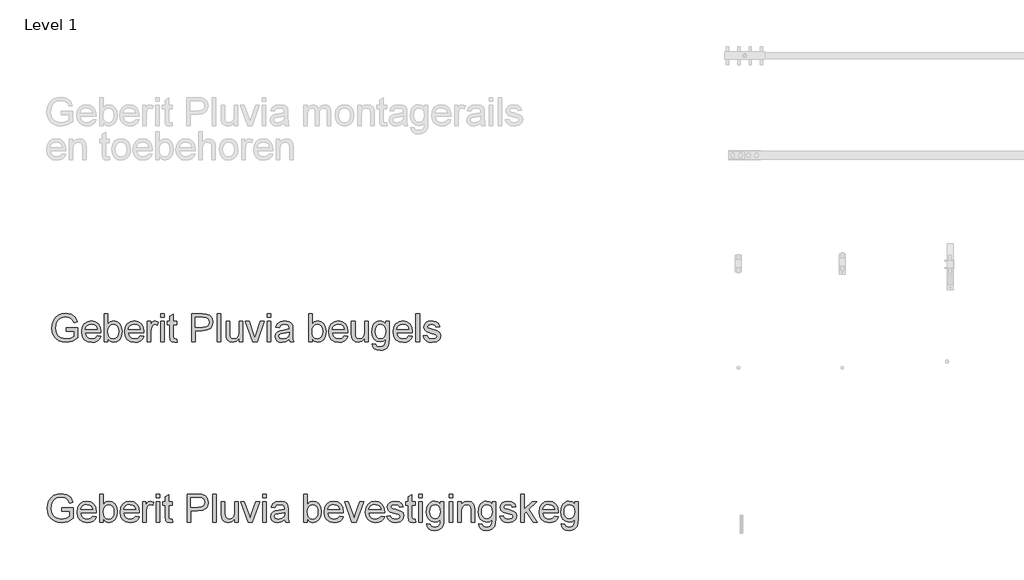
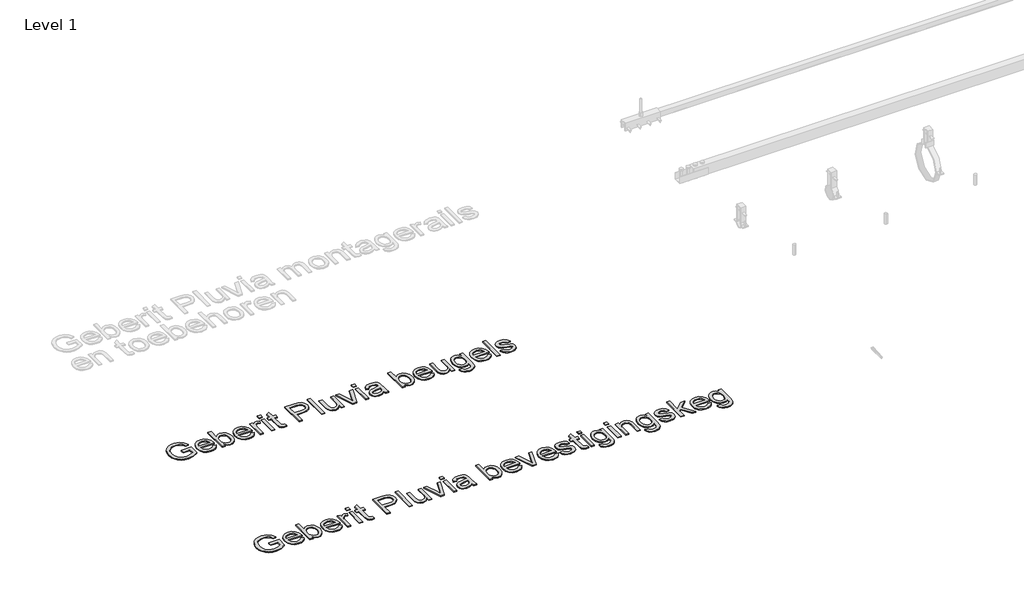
# One storey, part 2 of 5: 2 proxies.
"""IFC4 building model written with IfcOpenShell, lengths in millimetres."""

from ifc_helpers import new_model, si_unit, origin, origin_with_axes, place, context, project, spatial, polyline, outline, extrude, element, save

model = new_model("IFC4")

# Units and contexts
model_context = context("Model", 3, world=origin())
ifc_project = project(units=[si_unit("LENGTHUNIT", "METRE", prefix="MILLI")], contexts=[model_context])

# Site, building, storey
site = spatial("IfcSite", under=ifc_project)
building = spatial("IfcBuilding", under=site)
storey = spatial("IfcBuildingStorey", under=building, Name="Level 1", Elevation=0.0)

# Proxies
placement = place(None, origin())
element("IfcBuildingElementProxy", 1, Name="small", ObjectType="small", at=placement, inside=storey, context=model_context, shape_type="SweptSolid", body=[
    extrude(outline(polyline([(-3108.7115933, 19712.758304), (-3108.7115933, 19730.3381583), (-3051.5770669, 19730.3381583), (-3051.5770669, 19677.7702737), (-3079.7838058, 19661.1861534), (-3109.6043203, 19655.6237776), (-3129.3258609, 19657.8341353), (-3147.1503567, 19664.4652082), (-3161.957607, 19675.2852309), (-3172.6274112, 19690.0624375), (-3179.078222, 19707.7882183), (-3181.2284922, 19727.4539635), (-3179.0868059, 19747.2613432), (-3172.6617468, 19765.6867129), (-3162.2194164, 19781.1420487), (-3148.0259159, 19792.0393265), (-3130.7379147, 19798.5030132), (-3111.0120821, 19800.6575754), (-3083.5092241, 19795.6617379), (-3064.229755, 19781.7557985), (-3053.6028705, 19758.4933937), (-3069.8092986, 19753.9267518), (-3077.8266736, 19770.1846835), (-3091.5265991, 19779.5583167), (-3111.2867673, 19783.0777211), (-3133.7937878, 19779.2836315), (-3149.107489, 19769.3262921), (-3158.1549335, 19755.7808771), (-3163.648638, 19728.1750122), (-3161.9962347, 19711.3634181), (-3157.0390248, 19697.530442), (-3148.9272268, 19686.7747987), (-3137.8110592, 19679.1952033), (-3111.0120821, 19673.2036319), (-3086.9599572, 19677.7187703), (-3069.1569212, 19687.3499209), (-3069.1569212, 19712.758304), (-3108.7115933, 19712.758304)])), origin_with_axes(), (0.0, 0.0, 1.0), 5.0),
    extrude(outline(polyline([(-2952.8964006, 19688.5860044), (-2935.6599028, 19686.3885226), (-2941.870364, 19673.4010619), (-2951.7804918, 19663.6926561), (-2965.1671045, 19657.6409972), (-2981.8070203, 19655.6237776), (-3002.4341638, 19659.1045544), (-3018.3058193, 19669.5468849), (-3028.426253, 19686.2726398), (-3031.7997309, 19708.60369), (-3028.3919173, 19731.6858327), (-3018.1684767, 19748.9480822), (-3002.511419, 19759.7123093), (-2982.8027542, 19763.3003851), (-2963.7078393, 19759.7208933), (-2948.4499335, 19748.9824178), (-2938.4453826, 19731.754504), (-2935.1105324, 19708.706697), (-2935.2135393, 19703.9683769), (-3014.2198766, 19703.9683769), (-3011.1768794, 19690.8092379), (-3004.1080268, 19681.1351677), (-2993.906046, 19675.1865159), (-2981.4636638, 19673.2036319), (-2964.227166, 19676.8775468), (-2952.8964006, 19688.5860044)]), holes=[polyline([(-3014.2198766, 19721.5482312), (-2952.6903866, 19721.5482312), (-2959.7291955, 19737.4799741), (-2969.9783879, 19743.6603916), (-2982.8714255, 19745.7205308), (-2994.7215177, 19744.0767114), (-3004.5200547, 19739.1452533), (-3011.3313898, 19731.458359), (-3014.2198766, 19721.5482312)])]), origin_with_axes(), (0.0, 0.0, 1.0), 5.0),
    extrude(outline(polyline([(-2899.9508238, 19657.8212594), (-2917.5306781, 19657.8212594), (-2917.5306781, 19798.4600936), (-2899.9508238, 19798.4600936), (-2899.9508238, 19746.3042369), (-2887.6414922, 19759.051348), (-2872.3449589, 19763.3003851), (-2854.730769, 19759.4719598), (-2841.0651791, 19748.7077326), (-2832.670112, 19731.9691018), (-2829.6314067, 19711.0071857), (-2832.7774109, 19687.538767), (-2842.2154235, 19670.0790875), (-2856.0655675, 19659.2376051), (-2872.4479658, 19655.6237776), (-2888.0792718, 19660.2848425), (-2899.9508238, 19674.2680371), (-2899.9508238, 19657.8212594)]), holes=[polyline([(-2899.9508238, 19710.1831301), (-2898.749076, 19695.5218063), (-2895.1438324, 19685.5988026), (-2885.9332935, 19676.3024246), (-2873.9587346, 19673.2036319), (-2863.8125491, 19675.4869528), (-2855.1427968, 19682.3369156), (-2849.1941449, 19693.7106006), (-2847.211261, 19709.5650883), (-2849.1125978, 19725.6513417), (-2854.8166081, 19736.896268), (-2863.2159672, 19743.5144651), (-2873.2033502, 19745.7205308), (-2883.3495356, 19743.4372099), (-2892.019288, 19736.5872471), (-2897.9679399, 19725.419576), (-2899.9508238, 19710.1831301)])]), origin_with_axes(), (0.0, 0.0, 1.0), 5.0),
    extrude(outline(polyline([(-2737.5431857, 19688.5860044), (-2720.3066879, 19686.3885226), (-2726.5171491, 19673.4010619), (-2736.427277, 19663.6926561), (-2749.8138896, 19657.6409972), (-2766.4538054, 19655.6237776), (-2787.0809489, 19659.1045544), (-2802.9526044, 19669.5468849), (-2813.0730381, 19686.2726398), (-2816.446516, 19708.60369), (-2813.0387024, 19731.6858327), (-2802.8152618, 19748.9480822), (-2787.1582041, 19759.7123093), (-2767.4495393, 19763.3003851), (-2748.3546244, 19759.7208933), (-2733.0967186, 19748.9824178), (-2723.0921678, 19731.754504), (-2719.7573175, 19708.706697), (-2719.8603244, 19703.9683769), (-2798.8666617, 19703.9683769), (-2795.8236645, 19690.8092379), (-2788.7548119, 19681.1351677), (-2778.5528311, 19675.1865159), (-2766.1104489, 19673.2036319), (-2748.8739511, 19676.8775468), (-2737.5431857, 19688.5860044)]), holes=[polyline([(-2798.8666617, 19721.5482312), (-2737.3371718, 19721.5482312), (-2744.3759806, 19737.4799741), (-2754.625173, 19743.6603916), (-2767.5182106, 19745.7205308), (-2779.3683028, 19744.0767114), (-2789.1668398, 19739.1452533), (-2795.9781749, 19731.458359), (-2798.8666617, 19721.5482312)])]), origin_with_axes(), (0.0, 0.0, 1.0), 5.0),
    extrude(outline(polyline([(-2702.1774632, 19657.8212594), (-2702.1774632, 19761.1029033), (-2686.7950907, 19761.1029033), (-2686.7950907, 19745.8235377), (-2675.8763531, 19759.9011554), (-2664.8889442, 19763.3003851), (-2647.2404186, 19757.8753519), (-2653.1118152, 19742.1152872), (-2665.4726503, 19745.7205308), (-2675.4128218, 19742.2526298), (-2681.7477497, 19732.638647), (-2684.5976089, 19712.1059266), (-2684.5976089, 19657.8212594), (-2702.1774632, 19657.8212594)])), origin_with_axes(), (0.0, 0.0, 1.0), 5.0),
    extrude(outline(polyline([(-2636.2530097, 19657.8212594), (-2636.2530097, 19761.1029033), (-2618.6731554, 19761.1029033), (-2618.6731554, 19657.8212594), (-2636.2530097, 19657.8212594)])), origin_with_axes(), (0.0, 0.0, 1.0), 5.0),
    extrude(outline(polyline([(-2636.2530097, 19780.8802393), (-2636.2530097, 19798.4600936), (-2618.6731554, 19798.4600936), (-2618.6731554, 19780.8802393), (-2636.2530097, 19780.8802393)])), origin_with_axes(), (0.0, 0.0, 1.0), 5.0),
    extrude(outline(polyline([(-2554.9461836, 19672.4825832), (-2552.7487019, 19657.3062246), (-2565.8992569, 19655.6237776), (-2580.629252, 19658.5423081), (-2587.9770817, 19666.1991587), (-2590.1058922, 19686.148173), (-2590.1058922, 19743.523049), (-2603.2907829, 19743.523049), (-2603.2907829, 19761.1029033), (-2590.1058922, 19761.1029033), (-2590.1058922, 19786.2022655), (-2572.5260379, 19796.5372971), (-2572.5260379, 19761.1029033), (-2554.9461836, 19761.1029033), (-2554.9461836, 19743.523049), (-2572.5260379, 19743.523049), (-2572.5260379, 19686.6632078), (-2571.5989753, 19677.5985955), (-2568.5946057, 19674.3882119), (-2562.6030342, 19673.2036319), (-2554.9461836, 19672.4825832)])), origin_with_axes(), (0.0, 0.0, 1.0), 5.0),
    extrude(outline(polyline([(-2480.231803, 19657.8212594), (-2480.231803, 19798.4600936), (-2428.1102819, 19798.4600936), (-2407.0968623, 19797.1210032), (-2390.014875, 19790.5457256), (-2378.941627, 19776.9488071), (-2374.7526773, 19757.772345), (-2377.5810767, 19741.1968085), (-2386.0662749, 19727.3852921), (-2401.9336385, 19718.0631624), (-2426.908534, 19714.9557858), (-2462.6519487, 19714.9557858), (-2462.6519487, 19657.8212594), (-2480.231803, 19657.8212594)]), holes=[polyline([(-2462.6519487, 19732.5356401), (-2425.8784644, 19732.5356401), (-2410.290078, 19734.1494158), (-2399.9893822, 19738.9907428), (-2394.2467442, 19746.7591843), (-2392.3325316, 19757.1543032), (-2396.8476699, 19771.71262), (-2408.710638, 19779.6784915), (-2426.2904923, 19780.8802393), (-2462.6519487, 19780.8802393), (-2462.6519487, 19732.5356401)])]), origin_with_axes(), (0.0, 0.0, 1.0), 5.0),
    extrude(outline(polyline([(-2352.7778595, 19657.8212594), (-2352.7778595, 19798.4600936), (-2335.1980052, 19798.4600936), (-2335.1980052, 19657.8212594), (-2352.7778595, 19657.8212594)])), origin_with_axes(), (0.0, 0.0, 1.0), 5.0),
    extrude(outline(polyline([(-2242.9037702, 19657.8212594), (-2242.9037702, 19675.5727919), (-2256.672367, 19660.6110312), (-2274.6299135, 19655.6237776), (-2291.1625304, 19659.1260142), (-2302.5619671, 19667.9159414), (-2307.7981542, 19680.8604825), (-2308.8282238, 19697.2042533), (-2308.8282238, 19761.1029033), (-2291.2483695, 19761.1029033), (-2291.2483695, 19705.4791456), (-2290.1839643, 19687.5559348), (-2283.2309945, 19677.0320572), (-2270.131943, 19673.2036319), (-2255.4534514, 19677.1178963), (-2245.7536294, 19687.7791165), (-2242.9037702, 19707.3676065), (-2242.9037702, 19761.1029033), (-2225.323916, 19761.1029033), (-2225.323916, 19657.8212594), (-2242.9037702, 19657.8212594)])), origin_with_axes(), (0.0, 0.0, 1.0), 5.0),
    extrude(outline(polyline([(-2175.8119045, 19657.8212594), (-2212.1390253, 19761.1029033), (-2193.5291014, 19761.1029033), (-2171.5199479, 19699.2300568), (-2164.8931669, 19678.4226511), (-2158.4037285, 19698.0626446), (-2136.2572324, 19761.1029033), (-2117.6473085, 19761.1029033), (-2153.5280658, 19657.8212594), (-2175.8119045, 19657.8212594)])), origin_with_axes(), (0.0, 0.0, 1.0), 5.0),
    extrude(outline(polyline([(-2102.264936, 19780.8802393), (-2102.264936, 19798.4600936), (-2084.6850817, 19798.4600936), (-2084.6850817, 19780.8802393), (-2102.264936, 19780.8802393)])), origin_with_axes(), (0.0, 0.0, 1.0), 5.0),
    extrude(outline(polyline([(-2102.264936, 19657.8212594), (-2102.264936, 19761.1029033), (-2084.6850817, 19761.1029033), (-2084.6850817, 19657.8212594), (-2102.264936, 19657.8212594)])), origin_with_axes(), (0.0, 0.0, 1.0), 5.0),
    extrude(outline(polyline([(-1992.3908468, 19671.0061501), (-2009.4384985, 19659.0916786), (-2028.2716041, 19655.6237776), (-2042.9629715, 19657.7096685), (-2053.800162, 19663.9673413), (-2060.4827384, 19673.4697332), (-2062.7102639, 19685.2897817), (-2059.3453699, 19699.1957211), (-2050.5039393, 19709.2904031), (-2038.1946077, 19715.0587928), (-2022.9839135, 19717.702638), (-1992.4938538, 19723.7457129), (-1992.3908468, 19727.6599774), (-1993.6011786, 19735.5056741), (-1997.2321739, 19740.6388542), (-2005.3525558, 19744.4501116), (-2016.6661534, 19745.7205308), (-2034.4520216, 19742.338469), (-2042.9329278, 19730.3381583), (-2060.5127821, 19732.5356401), (-2052.907435, 19749.7034665), (-2037.5937338, 19759.7638128), (-2014.4000003, 19763.3003851), (-1993.0947277, 19760.1758407), (-1981.0600813, 19752.330144), (-1975.6693838, 19740.3985046), (-1974.8109925, 19725.0161321), (-1974.8109925, 19703.1443212), (-1973.9182655, 19672.602758), (-1970.416029, 19657.8212594), (-1987.9958832, 19657.8212594), (-1992.3908468, 19671.0061501)]), holes=[polyline([(-1992.3908468, 19706.1658587), (-2020.7520961, 19700.7751612), (-2035.8769512, 19697.925302), (-2042.7269139, 19693.2899888), (-2045.1304096, 19686.5258652), (-2039.8942226, 19677.0148894), (-2024.5290179, 19673.2036319), (-2006.7431497, 19677.4097494), (-1995.2750416, 19687.5902705), (-1992.4938538, 19701.187189), (-1992.3908468, 19706.1658587)])]), origin_with_axes(), (0.0, 0.0, 1.0), 5.0),
    extrude(outline(polyline([(-1878.121794, 19657.8212594), (-1895.7016483, 19657.8212594), (-1895.7016483, 19798.4600936), (-1878.121794, 19798.4600936), (-1878.121794, 19746.3042369), (-1865.8124624, 19759.051348), (-1850.5159291, 19763.3003851), (-1832.9017392, 19759.4719598), (-1819.2361493, 19748.7077326), (-1810.8410822, 19731.9691018), (-1807.8023769, 19711.0071857), (-1810.9483811, 19687.538767), (-1820.3863937, 19670.0790875), (-1834.2365377, 19659.2376051), (-1850.618936, 19655.6237776), (-1866.250242, 19660.2848425), (-1878.121794, 19674.2680371), (-1878.121794, 19657.8212594)]), holes=[polyline([(-1878.121794, 19710.1831301), (-1876.9200462, 19695.5218063), (-1873.3148026, 19685.5988026), (-1864.1042637, 19676.3024246), (-1852.1297048, 19673.2036319), (-1841.9835193, 19675.4869528), (-1833.313767, 19682.3369156), (-1827.3651151, 19693.7106006), (-1825.3822312, 19709.5650883), (-1827.283568, 19725.6513417), (-1832.9875783, 19736.896268), (-1841.3869374, 19743.5144651), (-1851.3743204, 19745.7205308), (-1861.5205058, 19743.4372099), (-1870.1902582, 19736.5872471), (-1876.1389101, 19725.419576), (-1878.121794, 19710.1831301)])]), origin_with_axes(), (0.0, 0.0, 1.0), 5.0),
    extrude(outline(polyline([(-1715.7141559, 19688.5860044), (-1698.4776581, 19686.3885226), (-1704.6881193, 19673.4010619), (-1714.5982471, 19663.6926561), (-1727.9848598, 19657.6409972), (-1744.6247756, 19655.6237776), (-1765.2519191, 19659.1045544), (-1781.1235746, 19669.5468849), (-1791.2440083, 19686.2726398), (-1794.6174862, 19708.60369), (-1791.2096726, 19731.6858327), (-1780.986232, 19748.9480822), (-1765.3291743, 19759.7123093), (-1745.6205095, 19763.3003851), (-1726.5255946, 19759.7208933), (-1711.2676888, 19748.9824178), (-1701.263138, 19731.754504), (-1697.9282877, 19708.706697), (-1698.0312946, 19703.9683769), (-1777.0376319, 19703.9683769), (-1773.9946347, 19690.8092379), (-1766.9257821, 19681.1351677), (-1756.7238013, 19675.1865159), (-1744.2814191, 19673.2036319), (-1727.0449213, 19676.8775468), (-1715.7141559, 19688.5860044)]), holes=[polyline([(-1777.0376319, 19721.5482312), (-1715.5081419, 19721.5482312), (-1722.5469508, 19737.4799741), (-1732.7961432, 19743.6603916), (-1745.6891808, 19745.7205308), (-1757.539273, 19744.0767114), (-1767.33781, 19739.1452533), (-1774.1491451, 19731.458359), (-1777.0376319, 19721.5482312)])]), origin_with_axes(), (0.0, 0.0, 1.0), 5.0),
    extrude(outline(polyline([(-1655.0087216, 19657.8212594), (-1691.3358423, 19761.1029033), (-1672.7259185, 19761.1029033), (-1650.716765, 19699.2300568), (-1644.089984, 19678.4226511), (-1637.6005456, 19698.0626446), (-1615.4540494, 19761.1029033), (-1596.8441256, 19761.1029033), (-1632.7248828, 19657.8212594), (-1655.0087216, 19657.8212594)])), origin_with_axes(), (0.0, 0.0, 1.0), 5.0),
    extrude(outline(polyline([(-1509.1508681, 19688.5860044), (-1491.9143704, 19686.3885226), (-1498.1248316, 19673.4010619), (-1508.0349594, 19663.6926561), (-1521.4215721, 19657.6409972), (-1538.0614878, 19655.6237776), (-1558.6886313, 19659.1045544), (-1574.5602869, 19669.5468849), (-1584.6807206, 19686.2726398), (-1588.0541984, 19708.60369), (-1584.6463849, 19731.6858327), (-1574.4229443, 19748.9480822), (-1558.7658865, 19759.7123093), (-1539.0572218, 19763.3003851), (-1519.9623068, 19759.7208933), (-1504.7044011, 19748.9824178), (-1494.6998502, 19731.754504), (-1491.3649999, 19708.706697), (-1491.4680069, 19703.9683769), (-1570.4743442, 19703.9683769), (-1567.4313469, 19690.8092379), (-1560.3624944, 19681.1351677), (-1550.1605135, 19675.1865159), (-1537.7181313, 19673.2036319), (-1520.4816336, 19676.8775468), (-1509.1508681, 19688.5860044)]), holes=[polyline([(-1570.4743442, 19721.5482312), (-1508.9448542, 19721.5482312), (-1515.983663, 19737.4799741), (-1526.2328554, 19743.6603916), (-1539.1258931, 19745.7205308), (-1550.9759853, 19744.0767114), (-1560.7745222, 19739.1452533), (-1567.5858574, 19731.458359), (-1570.4743442, 19721.5482312)])]), origin_with_axes(), (0.0, 0.0, 1.0), 5.0),
    extrude(outline(polyline([(-1480.377591, 19688.5860044), (-1462.7977367, 19690.7834862), (-1460.0251328, 19683.2639782), (-1454.660187, 19677.7359381), (-1436.0159275, 19673.2036319), (-1418.0927167, 19677.3582459), (-1412.2556557, 19687.1095713), (-1418.1270523, 19695.0067715), (-1436.2219414, 19700.0197768), (-1462.6947298, 19708.6208578), (-1474.248677, 19718.6640363), (-1478.1801092, 19732.844661), (-1475.0212292, 19745.9437125), (-1466.4029803, 19755.9525553), (-1455.2267253, 19761.1544068), (-1440.1018702, 19763.3003851), (-1418.7107584, 19759.8496519), (-1405.1138399, 19750.5103544), (-1399.070765, 19734.7331219), (-1416.6506193, 19732.5356401), (-1423.2602324, 19742.235462), (-1438.7284441, 19745.7205308), (-1455.552914, 19742.3899725), (-1460.6002549, 19734.6301149), (-1458.5057801, 19729.5141026), (-1451.9476704, 19725.6341739), (-1436.8056475, 19721.8915877), (-1411.0024044, 19713.6166953), (-1399.0192615, 19704.2430621), (-1394.6758014, 19688.9636966), (-1399.7746459, 19672.1392267), (-1414.4874731, 19659.9329021), (-1436.2562771, 19655.6237776), (-1453.9820579, 19657.7010846), (-1466.9180151, 19663.9330056), (-1475.5534318, 19674.2508693), (-1480.377591, 19688.5860044)])), origin_with_axes(), (0.0, 0.0, 1.0), 5.0),
    extrude(outline(polyline([(-1337.541275, 19672.4825832), (-1335.3437932, 19657.3062246), (-1348.4943483, 19655.6237776), (-1363.2243434, 19658.5423081), (-1370.5721731, 19666.1991587), (-1372.7009836, 19686.148173), (-1372.7009836, 19743.523049), (-1385.8858743, 19743.523049), (-1385.8858743, 19761.1029033), (-1372.7009836, 19761.1029033), (-1372.7009836, 19786.2022655), (-1355.1211293, 19796.5372971), (-1355.1211293, 19761.1029033), (-1337.541275, 19761.1029033), (-1337.541275, 19743.523049), (-1355.1211293, 19743.523049), (-1355.1211293, 19686.6632078), (-1354.1940667, 19677.5985955), (-1351.189697, 19674.3882119), (-1345.1981256, 19673.2036319), (-1337.541275, 19672.4825832)])), origin_with_axes(), (0.0, 0.0, 1.0), 5.0),
    extrude(outline(polyline([(-1319.9614207, 19780.8802393), (-1319.9614207, 19798.4600936), (-1302.3815665, 19798.4600936), (-1302.3815665, 19780.8802393), (-1319.9614207, 19780.8802393)])), origin_with_axes(), (0.0, 0.0, 1.0), 5.0),
    extrude(outline(polyline([(-1319.9614207, 19657.8212594), (-1319.9614207, 19761.1029033), (-1302.3815665, 19761.1029033), (-1302.3815665, 19657.8212594), (-1319.9614207, 19657.8212594)])), origin_with_axes(), (0.0, 0.0, 1.0), 5.0),
    extrude(outline(polyline([(-1280.4067486, 19649.0313323), (-1262.8268943, 19646.8338505), (-1257.127176, 19637.5632242), (-1240.0623565, 19633.6489598), (-1222.0704744, 19638.078259), (-1213.4865611, 19650.5077653), (-1212.2848133, 19671.0061501), (-1224.6628162, 19661.1174821), (-1239.7533356, 19657.8212594), (-1257.8782684, 19661.6582686), (-1271.3936397, 19673.1692962), (-1279.8015827, 19690.0452696), (-1282.6042304, 19709.9771161), (-1277.5740573, 19737.2224567), (-1271.4193915, 19748.2828289), (-1263.0157404, 19756.5019258), (-1252.6506652, 19761.6007702), (-1240.6117269, 19763.3003851), (-1224.9289175, 19759.4547919), (-1212.2848133, 19747.9180126), (-1212.2848133, 19761.1029033), (-1194.704959, 19761.1029033), (-1194.704959, 19671.9332127), (-1195.9067069, 19651.3446969), (-1199.5119504, 19637.786406), (-1205.7224116, 19628.7947569), (-1214.7398125, 19621.9061665), (-1226.3667229, 19617.5283707), (-1240.405713, 19616.0691055), (-1256.7623596, 19618.1249527), (-1269.6425214, 19624.2924944), (-1277.9045379, 19634.5888983), (-1280.4067486, 19649.0313323)]), holes=[polyline([(-1265.0243761, 19711.178864), (-1263.1487911, 19695.053983), (-1257.522036, 19683.9678591), (-1249.0625895, 19677.5428), (-1238.6889304, 19675.4011137), (-1228.3925265, 19677.5299242), (-1219.8901604, 19683.9163556), (-1214.1861501, 19694.860845), (-1212.2848133, 19710.6638292), (-1214.2419455, 19725.9045671), (-1220.1133422, 19736.8791002), (-1228.7401749, 19743.5101731), (-1238.9636156, 19745.7205308), (-1249.0025021, 19743.5445088), (-1257.419029, 19737.0164428), (-1263.1230393, 19726.2050041), (-1265.0243761, 19711.178864)])]), origin_with_axes(), (0.0, 0.0, 1.0), 5.0),
    extrude(outline(polyline([(-1168.3351776, 19780.8802393), (-1168.3351776, 19798.4600936), (-1150.7553233, 19798.4600936), (-1150.7553233, 19780.8802393), (-1168.3351776, 19780.8802393)])), origin_with_axes(), (0.0, 0.0, 1.0), 5.0),
    extrude(outline(polyline([(-1168.3351776, 19657.8212594), (-1168.3351776, 19761.1029033), (-1150.7553233, 19761.1029033), (-1150.7553233, 19657.8212594), (-1168.3351776, 19657.8212594)])), origin_with_axes(), (0.0, 0.0, 1.0), 5.0),
    extrude(outline(polyline([(-1124.3855419, 19657.8212594), (-1124.3855419, 19761.1029033), (-1106.8056876, 19761.1029033), (-1106.8056876, 19746.6819291), (-1093.3632795, 19759.1457711), (-1075.0108731, 19763.3003851), (-1058.4095849, 19759.9526589), (-1047.0788194, 19751.1627318), (-1041.8082967, 19738.2353585), (-1040.8812341, 19721.2392103), (-1040.8812341, 19657.8212594), (-1058.4610884, 19657.8212594), (-1058.4610884, 19718.8700502), (-1060.4868919, 19734.424101), (-1067.6458755, 19742.6474899), (-1079.7148575, 19745.7205308), (-1090.0112614, 19743.9951642), (-1098.7883127, 19738.8190646), (-1104.8013439, 19728.8188057), (-1106.8056876, 19712.6209614), (-1106.8056876, 19657.8212594), (-1124.3855419, 19657.8212594)])), origin_with_axes(), (0.0, 0.0, 1.0), 5.0),
    extrude(outline(polyline([(-1021.103898, 19649.0313323), (-1003.5240438, 19646.8338505), (-997.8243254, 19637.5632242), (-980.7595059, 19633.6489598), (-962.7676238, 19638.078259), (-954.1837106, 19650.5077653), (-952.9819627, 19671.0061501), (-965.3599656, 19661.1174821), (-980.450485, 19657.8212594), (-998.5754178, 19661.6582686), (-1012.0907892, 19673.1692962), (-1020.4987322, 19690.0452696), (-1023.3013798, 19709.9771161), (-1018.2712067, 19737.2224567), (-1012.1165409, 19748.2828289), (-1003.7128899, 19756.5019258), (-993.3478146, 19761.6007702), (-981.3088763, 19763.3003851), (-965.6260669, 19759.4547919), (-952.9819627, 19747.9180126), (-952.9819627, 19761.1029033), (-935.4021084, 19761.1029033), (-935.4021084, 19671.9332127), (-936.6038563, 19651.3446969), (-940.2090998, 19637.786406), (-946.4195611, 19628.7947569), (-955.4369619, 19621.9061665), (-967.0638724, 19617.5283707), (-981.1028624, 19616.0691055), (-997.4595091, 19618.1249527), (-1010.3396709, 19624.2924944), (-1018.6016873, 19634.5888983), (-1021.103898, 19649.0313323)]), holes=[polyline([(-1005.7215255, 19711.178864), (-1003.8459405, 19695.053983), (-998.2191854, 19683.9678591), (-989.7597389, 19677.5428), (-979.3860798, 19675.4011137), (-969.0896759, 19677.5299242), (-960.5873098, 19683.9163556), (-954.8832995, 19694.860845), (-952.9819627, 19710.6638292), (-954.9390949, 19725.9045671), (-960.8104916, 19736.8791002), (-969.4373244, 19743.5101731), (-979.660765, 19745.7205308), (-989.6996515, 19743.5445088), (-998.1161784, 19737.0164428), (-1003.8201888, 19726.2050041), (-1005.7215255, 19711.178864)])]), origin_with_axes(), (0.0, 0.0, 1.0), 5.0),
    extrude(outline(polyline([(-915.6247724, 19688.5860044), (-898.0449181, 19690.7834862), (-895.2723141, 19683.2639782), (-889.9073684, 19677.7359381), (-871.2631089, 19673.2036319), (-853.3398981, 19677.3582459), (-847.5028371, 19687.1095713), (-853.3742337, 19695.0067715), (-871.4691228, 19700.0197768), (-897.9419111, 19708.6208578), (-909.4958583, 19718.6640363), (-913.4272906, 19732.844661), (-910.2684105, 19745.9437125), (-901.6501617, 19755.9525553), (-890.4739066, 19761.1544068), (-875.3490516, 19763.3003851), (-853.9579398, 19759.8496519), (-840.3610213, 19750.5103544), (-834.3179464, 19734.7331219), (-851.8978006, 19732.5356401), (-858.5074138, 19742.235462), (-873.9756254, 19745.7205308), (-890.8000953, 19742.3899725), (-895.8474363, 19734.6301149), (-893.7529615, 19729.5141026), (-887.1948518, 19725.6341739), (-872.0528289, 19721.8915877), (-846.2495857, 19713.6166953), (-834.2664429, 19704.2430621), (-829.9229828, 19688.9636966), (-835.0218272, 19672.1392267), (-849.7346545, 19659.9329021), (-871.5034584, 19655.6237776), (-889.2292392, 19657.7010846), (-902.1651965, 19663.9330056), (-910.8006132, 19674.2508693), (-915.6247724, 19688.5860044)])), origin_with_axes(), (0.0, 0.0, 1.0), 5.0),
    extrude(outline(polyline([(-810.1456467, 19657.8212594), (-810.1456467, 19798.4600936), (-792.5657925, 19798.4600936), (-792.5657925, 19722.8873216), (-753.1484629, 19761.1029033), (-728.8388207, 19761.1029033), (-768.7368493, 19722.4066225), (-726.6413389, 19657.8212594), (-747.1740593, 19657.8212594), (-781.338034, 19710.1831301), (-792.5657925, 19699.2987281), (-792.5657925, 19657.8212594), (-810.1456467, 19657.8212594)])), origin_with_axes(), (0.0, 0.0, 1.0), 5.0),
    extrude(outline(polyline([(-638.9480815, 19688.5860044), (-621.7115837, 19686.3885226), (-627.9220449, 19673.4010619), (-637.8321727, 19663.6926561), (-651.2187854, 19657.6409972), (-667.8587012, 19655.6237776), (-688.4858446, 19659.1045544), (-704.3575002, 19669.5468849), (-714.4779339, 19686.2726398), (-717.8514118, 19708.60369), (-714.4435982, 19731.6858327), (-704.2201576, 19748.9480822), (-688.5630999, 19759.7123093), (-668.8544351, 19763.3003851), (-649.7595202, 19759.7208933), (-634.5016144, 19748.9824178), (-624.4970635, 19731.754504), (-621.1622133, 19708.706697), (-621.2652202, 19703.9683769), (-700.2715575, 19703.9683769), (-697.2285603, 19690.8092379), (-690.1597077, 19681.1351677), (-679.9577269, 19675.1865159), (-667.5153446, 19673.2036319), (-650.2788469, 19676.8775468), (-638.9480815, 19688.5860044)]), holes=[polyline([(-700.2715575, 19721.5482312), (-638.7420675, 19721.5482312), (-645.7808764, 19737.4799741), (-656.0300688, 19743.6603916), (-668.9231064, 19745.7205308), (-680.7731986, 19744.0767114), (-690.5717356, 19739.1452533), (-697.3830707, 19731.458359), (-700.2715575, 19721.5482312)])]), origin_with_axes(), (0.0, 0.0, 1.0), 5.0),
    extrude(outline(polyline([(-607.9773226, 19649.0313323), (-590.3974683, 19646.8338505), (-584.6977499, 19637.5632242), (-567.6329304, 19633.6489598), (-549.6410483, 19638.078259), (-541.0571351, 19650.5077653), (-539.8553872, 19671.0061501), (-552.2333901, 19661.1174821), (-567.3239095, 19657.8212594), (-585.4488423, 19661.6582686), (-598.9642137, 19673.1692962), (-607.3721567, 19690.0452696), (-610.1748043, 19709.9771161), (-605.1446312, 19737.2224567), (-598.9899654, 19748.2828289), (-590.5863144, 19756.5019258), (-580.2212392, 19761.6007702), (-568.1823009, 19763.3003851), (-552.4994914, 19759.4547919), (-539.8553872, 19747.9180126), (-539.8553872, 19761.1029033), (-522.275533, 19761.1029033), (-522.275533, 19671.9332127), (-523.4772808, 19651.3446969), (-527.0825244, 19637.786406), (-533.2929856, 19628.7947569), (-542.3103864, 19621.9061665), (-553.9372969, 19617.5283707), (-567.9762869, 19616.0691055), (-584.3329336, 19618.1249527), (-597.2130954, 19624.2924944), (-605.4751118, 19634.5888983), (-607.9773226, 19649.0313323)]), holes=[polyline([(-592.5949501, 19711.178864), (-590.719365, 19695.053983), (-585.0926099, 19683.9678591), (-576.6331634, 19677.5428), (-566.2595043, 19675.4011137), (-555.9631004, 19677.5299242), (-547.4607343, 19683.9163556), (-541.756724, 19694.860845), (-539.8553872, 19710.6638292), (-541.8125194, 19725.9045671), (-547.6839161, 19736.8791002), (-556.3107489, 19743.5101731), (-566.5341895, 19745.7205308), (-576.573076, 19743.5445088), (-584.9896029, 19737.0164428), (-590.6936133, 19726.2050041), (-592.5949501, 19711.178864)])]), origin_with_axes(), (0.0, 0.0, 1.0), 5.0),
])
element("IfcBuildingElementProxy", 2, Name="small", ObjectType="small", at=placement, inside=storey, context=model_context, shape_type="SweptSolid", body=[
    extrude(outline(polyline([(-3085.8115265, 20615.4289927), (-3085.8115265, 20633.008847), (-3028.6770001, 20633.008847), (-3028.6770001, 20580.4409624), (-3056.8837389, 20563.8568421), (-3086.7042534, 20558.2944663), (-3106.4257941, 20560.504824), (-3124.2502899, 20567.1358969), (-3139.0575402, 20577.9559196), (-3149.7273443, 20592.7331262), (-3156.1781551, 20610.458907), (-3158.3284253, 20630.1246522), (-3156.186739, 20649.9320319), (-3149.7616799, 20668.3574016), (-3139.3193495, 20683.8127374), (-3125.125849, 20694.7100152), (-3107.8378478, 20701.1737019), (-3088.1120152, 20703.3282641), (-3060.6091572, 20698.3324266), (-3041.3296881, 20684.4264872), (-3030.7028036, 20661.1640824), (-3046.9092317, 20656.5974405), (-3054.9266067, 20672.8553722), (-3068.6265322, 20682.2290054), (-3088.3867004, 20685.7484098), (-3110.8937209, 20681.9543202), (-3126.2074221, 20671.9969808), (-3135.2548666, 20658.4515658), (-3140.7485711, 20630.8457009), (-3139.0961678, 20614.0341068), (-3134.1389579, 20600.2011307), (-3126.0271599, 20589.4454874), (-3114.9109923, 20581.865892), (-3088.1120152, 20575.8743206), (-3064.0598904, 20580.389459), (-3046.2568543, 20590.0206096), (-3046.2568543, 20615.4289927), (-3085.8115265, 20615.4289927)])), origin_with_axes(), (0.0, 0.0, 1.0), 5.0),
    extrude(outline(polyline([(-2929.9963337, 20591.2566931), (-2912.7598359, 20589.0592113), (-2918.9702971, 20576.0717506), (-2928.880425, 20566.3633448), (-2942.2670376, 20560.3116859), (-2958.9069534, 20558.2944663), (-2979.5340969, 20561.7752431), (-2995.4057524, 20572.2175736), (-3005.5261861, 20588.9433285), (-3008.899664, 20611.2743787), (-3005.4918504, 20634.3565214), (-2995.2684098, 20651.6187709), (-2979.6113521, 20662.382998), (-2959.9026873, 20665.9710738), (-2940.8077724, 20662.391582), (-2925.5498666, 20651.6531065), (-2915.5453158, 20634.4251927), (-2912.2104655, 20611.3773857), (-2912.3134724, 20606.6390656), (-2991.3198097, 20606.6390656), (-2988.2768125, 20593.4799266), (-2981.2079599, 20583.8058564), (-2971.0059791, 20577.8572046), (-2958.5635969, 20575.8743206), (-2941.3270991, 20579.5482355), (-2929.9963337, 20591.2566931)]), holes=[polyline([(-2991.3198097, 20624.2189199), (-2929.7903198, 20624.2189199), (-2936.8291286, 20640.1506628), (-2947.078321, 20646.3310803), (-2959.9713586, 20648.3912195), (-2971.8214508, 20646.7474001), (-2981.6199878, 20641.815942), (-2988.4313229, 20634.1290477), (-2991.3198097, 20624.2189199)])]), origin_with_axes(), (0.0, 0.0, 1.0), 5.0),
    extrude(outline(polyline([(-2877.0507569, 20560.4919481), (-2894.6306112, 20560.4919481), (-2894.6306112, 20701.1307823), (-2877.0507569, 20701.1307823), (-2877.0507569, 20648.9749256), (-2864.7414254, 20661.7220367), (-2849.444892, 20665.9710738), (-2831.8307021, 20662.1426485), (-2818.1651122, 20651.3784213), (-2809.7700451, 20634.6397905), (-2806.7313398, 20613.6778744), (-2809.877344, 20590.2094557), (-2819.3153566, 20572.7497762), (-2833.1655006, 20561.9082938), (-2849.547899, 20558.2944663), (-2865.1792049, 20562.9555312), (-2877.0507569, 20576.9387258), (-2877.0507569, 20560.4919481)]), holes=[polyline([(-2877.0507569, 20612.8538188), (-2875.8490091, 20598.192495), (-2872.2437655, 20588.2694913), (-2863.0332266, 20578.9731133), (-2851.0586677, 20575.8743206), (-2840.9124823, 20578.1576415), (-2832.2427299, 20585.0076043), (-2826.294078, 20596.3812893), (-2824.3111941, 20612.235777), (-2826.2125309, 20628.3220304), (-2831.9165412, 20639.5669567), (-2840.3159003, 20646.1851538), (-2850.3032833, 20648.3912195), (-2860.4494688, 20646.1078986), (-2869.1192211, 20639.2579358), (-2875.067873, 20628.0902647), (-2877.0507569, 20612.8538188)])]), origin_with_axes(), (0.0, 0.0, 1.0), 5.0),
    extrude(outline(polyline([(-2714.6431188, 20591.2566931), (-2697.406621, 20589.0592113), (-2703.6170823, 20576.0717506), (-2713.5272101, 20566.3633448), (-2726.9138227, 20560.3116859), (-2743.5537385, 20558.2944663), (-2764.180882, 20561.7752431), (-2780.0525375, 20572.2175736), (-2790.1729712, 20588.9433285), (-2793.5464491, 20611.2743787), (-2790.1386356, 20634.3565214), (-2779.9151949, 20651.6187709), (-2764.2581372, 20662.382998), (-2744.5494724, 20665.9710738), (-2725.4545575, 20662.391582), (-2710.1966517, 20651.6531065), (-2700.1921009, 20634.4251927), (-2696.8572506, 20611.3773857), (-2696.9602576, 20606.6390656), (-2775.9665948, 20606.6390656), (-2772.9235976, 20593.4799266), (-2765.8547451, 20583.8058564), (-2755.6527642, 20577.8572046), (-2743.210382, 20575.8743206), (-2725.9738842, 20579.5482355), (-2714.6431188, 20591.2566931)]), holes=[polyline([(-2775.9665948, 20624.2189199), (-2714.4371049, 20624.2189199), (-2721.4759137, 20640.1506628), (-2731.7251061, 20646.3310803), (-2744.6181438, 20648.3912195), (-2756.468236, 20646.7474001), (-2766.2667729, 20641.815942), (-2773.078108, 20634.1290477), (-2775.9665948, 20624.2189199)])]), origin_with_axes(), (0.0, 0.0, 1.0), 5.0),
    extrude(outline(polyline([(-2679.2773963, 20560.4919481), (-2679.2773963, 20663.773592), (-2663.8950238, 20663.773592), (-2663.8950238, 20648.4942264), (-2652.9762862, 20662.5718441), (-2641.9888773, 20665.9710738), (-2624.3403517, 20660.5460406), (-2630.2117483, 20644.7859759), (-2642.5725834, 20648.3912195), (-2652.5127549, 20644.9233185), (-2658.8476829, 20635.3093357), (-2661.697542, 20614.7766153), (-2661.697542, 20560.4919481), (-2679.2773963, 20560.4919481)])), origin_with_axes(), (0.0, 0.0, 1.0), 5.0),
    extrude(outline(polyline([(-2613.3529428, 20683.550928), (-2613.3529428, 20701.1307823), (-2595.7730885, 20701.1307823), (-2595.7730885, 20683.550928), (-2613.3529428, 20683.550928)])), origin_with_axes(), (0.0, 0.0, 1.0), 5.0),
    extrude(outline(polyline([(-2613.3529428, 20560.4919481), (-2613.3529428, 20663.773592), (-2595.7730885, 20663.773592), (-2595.7730885, 20560.4919481), (-2613.3529428, 20560.4919481)])), origin_with_axes(), (0.0, 0.0, 1.0), 5.0),
    extrude(outline(polyline([(-2532.0461168, 20575.1532719), (-2529.848635, 20559.9769133), (-2542.99919, 20558.2944663), (-2557.7291851, 20561.2129968), (-2565.0770148, 20568.8698474), (-2567.2058253, 20588.8188617), (-2567.2058253, 20646.1937377), (-2580.390716, 20646.1937377), (-2580.390716, 20663.773592), (-2567.2058253, 20663.773592), (-2567.2058253, 20688.8729542), (-2549.625971, 20699.2079858), (-2549.625971, 20663.773592), (-2532.0461168, 20663.773592), (-2532.0461168, 20646.1937377), (-2549.625971, 20646.1937377), (-2549.625971, 20589.3338965), (-2548.6989084, 20580.2692842), (-2545.6945388, 20577.0589006), (-2539.7029673, 20575.8743206), (-2532.0461168, 20575.1532719)])), origin_with_axes(), (0.0, 0.0, 1.0), 5.0),
    extrude(outline(polyline([(-2457.3317361, 20560.4919481), (-2457.3317361, 20701.1307823), (-2405.210215, 20701.1307823), (-2384.1967954, 20699.7916919), (-2367.1148081, 20693.2164143), (-2356.0415601, 20679.6194958), (-2351.8526104, 20660.4430337), (-2354.6810098, 20643.8674972), (-2363.166208, 20630.0559809), (-2379.0335716, 20620.7338511), (-2404.0084672, 20617.6264745), (-2439.7518818, 20617.6264745), (-2439.7518818, 20560.4919481), (-2457.3317361, 20560.4919481)]), holes=[polyline([(-2439.7518818, 20635.2063288), (-2402.9783976, 20635.2063288), (-2387.3900112, 20636.8201045), (-2377.0893153, 20641.6614315), (-2371.3466773, 20649.429873), (-2369.4324647, 20659.8249919), (-2373.9476031, 20674.3833087), (-2385.8105711, 20682.3491802), (-2403.3904254, 20683.550928), (-2439.7518818, 20683.550928), (-2439.7518818, 20635.2063288)])]), origin_with_axes(), (0.0, 0.0, 1.0), 5.0),
    extrude(outline(polyline([(-2329.8777926, 20560.4919481), (-2329.8777926, 20701.1307823), (-2312.2979383, 20701.1307823), (-2312.2979383, 20560.4919481), (-2329.8777926, 20560.4919481)])), origin_with_axes(), (0.0, 0.0, 1.0), 5.0),
    extrude(outline(polyline([(-2220.0037034, 20560.4919481), (-2220.0037034, 20578.2434806), (-2233.7723002, 20563.2817199), (-2251.7298466, 20558.2944663), (-2268.2624635, 20561.7967029), (-2279.6619002, 20570.5866301), (-2284.8980873, 20583.5311712), (-2285.9281569, 20599.874942), (-2285.9281569, 20663.773592), (-2268.3483026, 20663.773592), (-2268.3483026, 20608.1498343), (-2267.2838974, 20590.2266235), (-2260.3309277, 20579.7027459), (-2247.2318761, 20575.8743206), (-2232.5533845, 20579.788585), (-2222.8535625, 20590.4498052), (-2220.0037034, 20610.0382952), (-2220.0037034, 20663.773592), (-2202.4238491, 20663.773592), (-2202.4238491, 20560.4919481), (-2220.0037034, 20560.4919481)])), origin_with_axes(), (0.0, 0.0, 1.0), 5.0),
    extrude(outline(polyline([(-2152.9118376, 20560.4919481), (-2189.2389584, 20663.773592), (-2170.6290345, 20663.773592), (-2148.619881, 20601.9007455), (-2141.9931, 20581.0933398), (-2135.5036616, 20600.7333333), (-2113.3571655, 20663.773592), (-2094.7472416, 20663.773592), (-2130.6279989, 20560.4919481), (-2152.9118376, 20560.4919481)])), origin_with_axes(), (0.0, 0.0, 1.0), 5.0),
    extrude(outline(polyline([(-2079.3648691, 20683.550928), (-2079.3648691, 20701.1307823), (-2061.7850149, 20701.1307823), (-2061.7850149, 20683.550928), (-2079.3648691, 20683.550928)])), origin_with_axes(), (0.0, 0.0, 1.0), 5.0),
    extrude(outline(polyline([(-2079.3648691, 20560.4919481), (-2079.3648691, 20663.773592), (-2061.7850149, 20663.773592), (-2061.7850149, 20560.4919481), (-2079.3648691, 20560.4919481)])), origin_with_axes(), (0.0, 0.0, 1.0), 5.0),
    extrude(outline(polyline([(-1969.4907799, 20573.6768388), (-1986.5384316, 20561.7623673), (-2005.3715372, 20558.2944663), (-2020.0629047, 20560.3803572), (-2030.9000951, 20566.63803), (-2037.5826715, 20576.1404219), (-2039.810197, 20587.9604704), (-2036.445303, 20601.8664098), (-2027.6038724, 20611.9610918), (-2015.2945409, 20617.7294815), (-2000.0838466, 20620.3733267), (-1969.5937869, 20626.4164016), (-1969.4907799, 20630.3306661), (-1970.7011117, 20638.1763628), (-1974.332107, 20643.3095429), (-1982.4524889, 20647.1208003), (-1993.7660865, 20648.3912195), (-2011.5519547, 20645.0091577), (-2020.032861, 20633.008847), (-2037.6127152, 20635.2063288), (-2030.0073681, 20652.3741552), (-2014.6936669, 20662.4345015), (-1991.4999334, 20665.9710738), (-1970.1946608, 20662.8465294), (-1958.1600145, 20655.0008327), (-1952.769317, 20643.0691933), (-1951.9109256, 20627.6868208), (-1951.9109256, 20605.8150099), (-1951.0181987, 20575.2734467), (-1947.5159621, 20560.4919481), (-1965.0958163, 20560.4919481), (-1969.4907799, 20573.6768388)]), holes=[polyline([(-1969.4907799, 20608.8365474), (-1997.8520292, 20603.4458499), (-2012.9768843, 20600.5959907), (-2019.826847, 20595.9606775), (-2022.2303427, 20589.1965539), (-2016.9941557, 20579.6855781), (-2001.628951, 20575.8743206), (-1983.8430828, 20580.0804381), (-1972.3749748, 20590.2609592), (-1969.5937869, 20603.8578777), (-1969.4907799, 20608.8365474)])]), origin_with_axes(), (0.0, 0.0, 1.0), 5.0),
    extrude(outline(polyline([(-1855.2217271, 20560.4919481), (-1872.8015814, 20560.4919481), (-1872.8015814, 20701.1307823), (-1855.2217271, 20701.1307823), (-1855.2217271, 20648.9749256), (-1842.9123956, 20661.7220367), (-1827.6158622, 20665.9710738), (-1810.0016723, 20662.1426485), (-1796.3360824, 20651.3784213), (-1787.9410153, 20634.6397905), (-1784.90231, 20613.6778744), (-1788.0483142, 20590.2094557), (-1797.4863268, 20572.7497762), (-1811.3364708, 20561.9082938), (-1827.7188692, 20558.2944663), (-1843.3501751, 20562.9555312), (-1855.2217271, 20576.9387258), (-1855.2217271, 20560.4919481)]), holes=[polyline([(-1855.2217271, 20612.8538188), (-1854.0199793, 20598.192495), (-1850.4147357, 20588.2694913), (-1841.2041968, 20578.9731133), (-1829.2296379, 20575.8743206), (-1819.0834525, 20578.1576415), (-1810.4137001, 20585.0076043), (-1804.4650482, 20596.3812893), (-1802.4821643, 20612.235777), (-1804.3835011, 20628.3220304), (-1810.0875114, 20639.5669567), (-1818.4868705, 20646.1851538), (-1828.4742535, 20648.3912195), (-1838.620439, 20646.1078986), (-1847.2901913, 20639.2579358), (-1853.2388432, 20628.0902647), (-1855.2217271, 20612.8538188)])]), origin_with_axes(), (0.0, 0.0, 1.0), 5.0),
    extrude(outline(polyline([(-1692.814089, 20591.2566931), (-1675.5775912, 20589.0592113), (-1681.7880525, 20576.0717506), (-1691.6981803, 20566.3633448), (-1705.0847929, 20560.3116859), (-1721.7247087, 20558.2944663), (-1742.3518522, 20561.7752431), (-1758.2235077, 20572.2175736), (-1768.3439414, 20588.9433285), (-1771.7174193, 20611.2743787), (-1768.3096058, 20634.3565214), (-1758.0861651, 20651.6187709), (-1742.4291074, 20662.382998), (-1722.7204426, 20665.9710738), (-1703.6255277, 20662.391582), (-1688.3676219, 20651.6531065), (-1678.3630711, 20634.4251927), (-1675.0282208, 20611.3773857), (-1675.1312277, 20606.6390656), (-1754.137565, 20606.6390656), (-1751.0945678, 20593.4799266), (-1744.0257153, 20583.8058564), (-1733.8237344, 20577.8572046), (-1721.3813522, 20575.8743206), (-1704.1448544, 20579.5482355), (-1692.814089, 20591.2566931)]), holes=[polyline([(-1754.137565, 20624.2189199), (-1692.6080751, 20624.2189199), (-1699.6468839, 20640.1506628), (-1709.8960763, 20646.3310803), (-1722.7891139, 20648.3912195), (-1734.6392062, 20646.7474001), (-1744.4377431, 20641.815942), (-1751.2490782, 20634.1290477), (-1754.137565, 20624.2189199)])]), origin_with_axes(), (0.0, 0.0, 1.0), 5.0),
    extrude(outline(polyline([(-1591.523913, 20560.4919481), (-1591.523913, 20578.2434806), (-1605.2925098, 20563.2817199), (-1623.2500562, 20558.2944663), (-1639.7826731, 20561.7967029), (-1651.1821099, 20570.5866301), (-1656.4182969, 20583.5311712), (-1657.4483665, 20599.874942), (-1657.4483665, 20663.773592), (-1639.8685122, 20663.773592), (-1639.8685122, 20608.1498343), (-1638.804107, 20590.2266235), (-1631.8511373, 20579.7027459), (-1618.7520857, 20575.8743206), (-1604.0735941, 20579.788585), (-1594.3737722, 20590.4498052), (-1591.523913, 20610.0382952), (-1591.523913, 20663.773592), (-1573.9440587, 20663.773592), (-1573.9440587, 20560.4919481), (-1591.523913, 20560.4919481)])), origin_with_axes(), (0.0, 0.0, 1.0), 5.0),
    extrude(outline(polyline([(-1554.1667226, 20551.702021), (-1536.5868684, 20549.5045392), (-1530.88715, 20540.2339129), (-1513.8223305, 20536.3196485), (-1495.8304484, 20540.7489477), (-1487.2465352, 20553.178454), (-1486.0447873, 20573.6768388), (-1498.4227902, 20563.7881708), (-1513.5133096, 20560.4919481), (-1531.6382424, 20564.3289573), (-1545.1536138, 20575.8399849), (-1553.5615568, 20592.7159583), (-1556.3642044, 20612.6478048), (-1551.3340313, 20639.8931454), (-1545.1793655, 20650.9535176), (-1536.7757145, 20659.1726145), (-1526.4106392, 20664.2714589), (-1514.3717009, 20665.9710738), (-1498.6888915, 20662.1254806), (-1486.0447873, 20650.5887013), (-1486.0447873, 20663.773592), (-1468.464933, 20663.773592), (-1468.464933, 20574.6039014), (-1469.6666809, 20554.0153856), (-1473.2719244, 20540.4570947), (-1479.4823857, 20531.4654456), (-1488.4997865, 20524.5768552), (-1500.126697, 20520.1990595), (-1514.165687, 20518.7397942), (-1530.5223337, 20520.7956414), (-1543.4024955, 20526.9631831), (-1551.6645119, 20537.259587), (-1554.1667226, 20551.702021)]), holes=[polyline([(-1538.7843501, 20613.8495527), (-1536.9087651, 20597.7246717), (-1531.28201, 20586.6385478), (-1522.8225635, 20580.2134887), (-1512.4489044, 20578.0718024), (-1502.1525005, 20580.2006129), (-1493.6501344, 20586.5870443), (-1487.9461241, 20597.5315337), (-1486.0447873, 20613.3345179), (-1488.0019195, 20628.5752558), (-1493.8733162, 20639.5497889), (-1502.500149, 20646.1808618), (-1512.7235896, 20648.3912195), (-1522.7624761, 20646.2151975), (-1531.179003, 20639.6871315), (-1536.8830134, 20628.8756928), (-1538.7843501, 20613.8495527)])]), origin_with_axes(), (0.0, 0.0, 1.0), 5.0),
    extrude(outline(polyline([(-1369.7842667, 20591.2566931), (-1352.5477689, 20589.0592113), (-1358.7582301, 20576.0717506), (-1368.6683579, 20566.3633448), (-1382.0549706, 20560.3116859), (-1398.6948864, 20558.2944663), (-1419.3220299, 20561.7752431), (-1435.1936854, 20572.2175736), (-1445.3141191, 20588.9433285), (-1448.687597, 20611.2743787), (-1445.2797834, 20634.3565214), (-1435.0563428, 20651.6187709), (-1419.3992851, 20662.382998), (-1399.6906203, 20665.9710738), (-1380.5957054, 20662.391582), (-1365.3377996, 20651.6531065), (-1355.3332488, 20634.4251927), (-1351.9983985, 20611.3773857), (-1352.1014054, 20606.6390656), (-1431.1077427, 20606.6390656), (-1428.0647455, 20593.4799266), (-1420.9958929, 20583.8058564), (-1410.7939121, 20577.8572046), (-1398.3515299, 20575.8743206), (-1381.1150321, 20579.5482355), (-1369.7842667, 20591.2566931)]), holes=[polyline([(-1431.1077427, 20624.2189199), (-1369.5782527, 20624.2189199), (-1376.6170616, 20640.1506628), (-1386.866254, 20646.3310803), (-1399.7592916, 20648.3912195), (-1411.6093838, 20646.7474001), (-1421.4079208, 20641.815942), (-1428.2192559, 20634.1290477), (-1431.1077427, 20624.2189199)])]), origin_with_axes(), (0.0, 0.0, 1.0), 5.0),
    extrude(outline(polyline([(-1334.4185442, 20560.4919481), (-1334.4185442, 20701.1307823), (-1316.8386899, 20701.1307823), (-1316.8386899, 20560.4919481), (-1334.4185442, 20560.4919481)])), origin_with_axes(), (0.0, 0.0, 1.0), 5.0),
    extrude(outline(polyline([(-1297.0613539, 20591.2566931), (-1279.4814996, 20593.4541749), (-1276.7088956, 20585.9346669), (-1271.3439498, 20580.4066268), (-1252.6996903, 20575.8743206), (-1234.7764795, 20580.0289346), (-1228.9394185, 20589.78026), (-1234.8108152, 20597.6774602), (-1252.9057042, 20602.6904655), (-1279.3784926, 20611.2915465), (-1290.9324398, 20621.334725), (-1294.8638721, 20635.5153497), (-1291.704992, 20648.6144012), (-1283.0867431, 20658.623244), (-1271.9104881, 20663.8250955), (-1256.785633, 20665.9710738), (-1235.3945213, 20662.5203407), (-1221.7976027, 20653.1810431), (-1215.7545278, 20637.4038106), (-1233.3343821, 20635.2063288), (-1239.9439953, 20644.9061507), (-1255.4122069, 20648.3912195), (-1272.2366768, 20645.0606612), (-1277.2840178, 20637.3008036), (-1275.189543, 20632.1847913), (-1268.6314333, 20628.3048626), (-1253.4894103, 20624.5622764), (-1227.6861672, 20616.287384), (-1215.7030243, 20606.9137508), (-1211.3595643, 20591.6343853), (-1216.4584087, 20574.8099154), (-1231.171236, 20562.6035908), (-1252.9400399, 20558.2944663), (-1270.6658207, 20560.3717733), (-1283.6017779, 20566.6036943), (-1292.2371946, 20576.921558), (-1297.0613539, 20591.2566931)])), origin_with_axes(), (0.0, 0.0, 1.0), 5.0),
])

save(model, "model.ifc")
